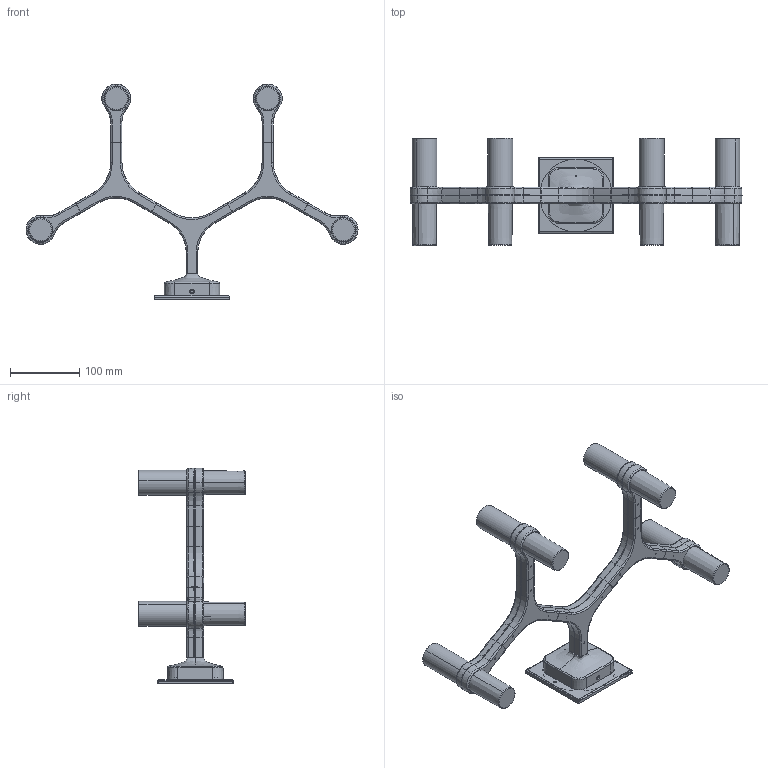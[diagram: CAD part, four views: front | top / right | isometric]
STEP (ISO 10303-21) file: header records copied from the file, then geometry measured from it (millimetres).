
FILE_DESCRIPTION (( 'STEP AP203' ), '1' );
FILE_NAME ('CROWN PARETE 4 LUCI cover plate.STEP', '2017-07-28T12:30:00', ( 'user' ), ( '' ), 'SwSTEP 2.0', 'SolidWorks 2016', '' );
FILE_SCHEMA (( 'CONFIG_CONTROL_DESIGN' ));
Length unit declared in the file: millimetre
Products named in the file (10): 524LCY000001_Crossbar; CROWN PARETE 4 LUCI cover plate; 051CRO701500_TRITTICO_SUP_PARETE_MITO; 051CRO701700_BRACCIO_PTL_INF_PARETE_MITO; 051CRO701800_BRACCIO_PTL_SUP_PARETE_MITO; 051CRO700800_BICCHIERE; 051CRO702200_COPERCHIO ROSONE 80X80 AL_mito; 061CRO701200; 051CRO701600_TRITTICO_INF_PARETE_MITO; 010MYR007600_Square cover plate
Assembly tree (25 placements, depth 2):
  CROWN PARETE 4 LUCI cover plate
    051CRO702200_COPERCHIO ROSONE 80X80 AL_mito
    051CRO701600_TRITTICO_INF_PARETE_MITO  x3
    051CRO701500_TRITTICO_SUP_PARETE_MITO  x3
    051CRO701700_BRACCIO_PTL_INF_PARETE_MITO  x4
    051CRO701800_BRACCIO_PTL_SUP_PARETE_MITO  x4
    051CRO700800_BICCHIERE  x4
    061CRO701200  x4
    010MYR007600_Square cover plate
    524LCY000001_Crossbar
Bounding box: 479.52 x 154.5 x 311.75 mm (x, y, z)
Volume: 345365.7 mm3; surface area: 329806.8 mm2
Topology: 22 solids, 28 shells, 6014 faces, 16034 edges, 10271 vertices
Faces by surface type: plane 3596, cylinder 980, bspline 961, cone 267, torus 174, sphere 36
Entity records: 119371 total; most frequent: CARTESIAN_POINT 58713, ORIENTED_EDGE 13212, DIRECTION 11016, EDGE_CURVE 6608, VERTEX_POINT 4162, VECTOR 4020, LINE 4020, AXIS2_PLACEMENT_3D 3498
